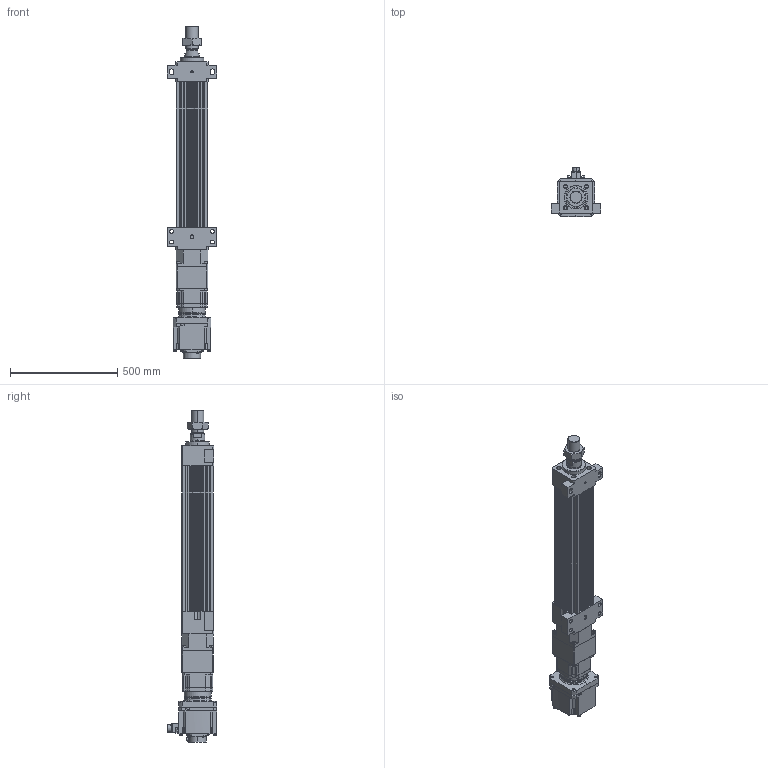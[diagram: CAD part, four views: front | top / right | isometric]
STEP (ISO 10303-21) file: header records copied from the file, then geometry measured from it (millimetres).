
FILE_DESCRIPTION (( 'STEP AP203' ), '1' );
FILE_NAME ('HES150NS(HS)-S400-W035G00-M-FFB.STEP', '2023-01-31T12:43:40', ( 'tms' ), ( '' ), 'SwSTEP 2.0', 'SolidWorks 2013', '' );
FILE_SCHEMA (( 'CONFIG_CONTROL_DESIGN' ));
Length unit declared in the file: millimetre
Products named in the file (9): M56X2.0P; HES150-S400-G142-FFB; P0403500801; AB1421; HG-SR352; HES150NS(HS)-S400-W035G00-M-FFB; P1301500001; AB142-003[HG-SR352]; HES150 ROD M ST400
Assembly tree (8 placements, depth 3):
  HES150NS(HS)-S400-W035G00-M-FFB
    HES150-S400-G142-FFB
    HES150 ROD M ST400
    M56X2.0P
    AB142-003[HG-SR352]
      AB1421
      P1301500001
      P0403500801
    HG-SR352
Bounding box: 230 x 228.85 x 1547.5 mm (x, y, z)
Volume: 17635780.2 mm3; surface area: 1915180.2 mm2
Topology: 5 solids, 23 shells, 1522 faces, 3951 edges, 2569 vertices
Faces by surface type: cylinder 691, plane 599, cone 150, bspline 76, torus 6
Entity records: 55583 total; most frequent: CARTESIAN_POINT 16843, DIRECTION 8091, ORIENTED_EDGE 7808, EDGE_CURVE 3926, AXIS2_PLACEMENT_3D 3042, VERTEX_POINT 2569, LINE 2007, VECTOR 2007
